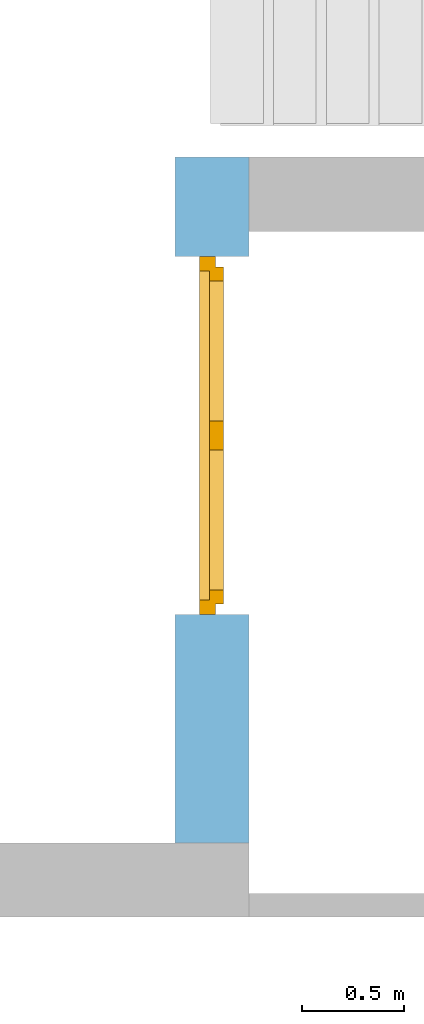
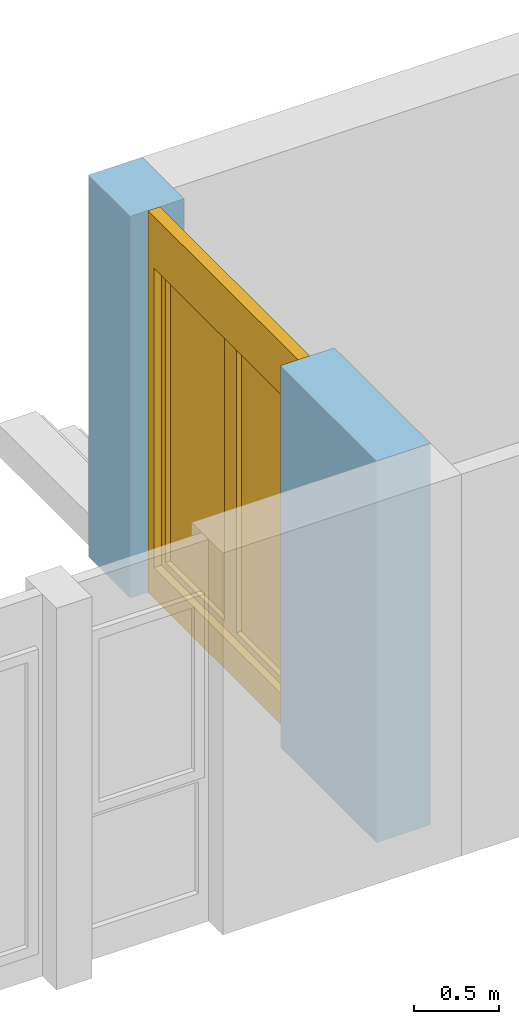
# One storey, part 19 of 41: 1 window, 1 opening, plus 1 element that does not belong to this part.
"""IFC2X3 building model written with IfcOpenShell, lengths in millimetres."""

from ifc_helpers import new_model, entity, si_unit, converted_unit, frame, frame_2d, origin, origin_with_axes, place, context, subcontext, project, spatial, rectangle, extrude, faceted_brep, material, layer, layer_set, layer_usage, type_object, element, fill, save


model = new_model("IFC2X3")

# Units and contexts
model_context = context("Model", 3, precision=1e-05, world=origin())
body_context = subcontext(model_context, "Body", "Model", "MODEL_VIEW")
ifc_project = project(units=[si_unit("LENGTHUNIT", "METRE", prefix="MILLI"), converted_unit("PLANEANGLEUNIT", "DEGREE", entity("IfcPlaneAngleMeasure", 0.0174532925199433), si_unit("PLANEANGLEUNIT", "RADIAN"), dimensions=[0, 0, 0, 0, 0, 0, 0]), si_unit("AREAUNIT", "SQUARE_METRE"), si_unit("VOLUMEUNIT", "CUBIC_METRE")], contexts=[model_context])

# Building, storey
building_placement = place(None, origin())
building = spatial("IfcBuilding", under=ifc_project, at=building_placement, Name="Gebäude", CompositionType="ELEMENT")
storey_placement = place(building_placement, frame((0.0, 0.0, -200.0), z_axis=(0.0, 0.0, 1.0), x_axis=(1.0, 0.0, 0.0)))
storey = spatial("IfcBuildingStorey", under=building, at=storey_placement, Name="EG.- Grundriss", CompositionType="ELEMENT", Elevation=-200.0)

# Wall, opening, window
ifc_material_1 = material(Name="Poroton")
ifc_layer = layer(ifc_material_1, 365.0000000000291)
ifc_layer_set = layer_set([ifc_layer])
ifc_layer_usage = layer_usage(ifc_layer_set, "AXIS2", "POSITIVE", 0.0)
wall_placement = place(storey_placement, frame((154222.7928067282, 136274.8877324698, 0.0), z_axis=(0.0, 0.0, 1.0), x_axis=(0.0, 1.0, 0.0)))
wall = element("IfcWallStandardCase", 1, at=wall_placement, inside=storey, material=ifc_layer_usage, Name="<Unnamed Element>", context=body_context, shape_type="SweptSolid", body=[
    extrude(rectangle(XDim=3374.999999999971, YDim=365.0000000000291, at=frame_2d((1687.499999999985, 182.5000000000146), x_axis=(1.0, 0.0))), origin_with_axes(), (0.0, 0.0, 1.0), 2730.0),
])
opening_placement = place(wall_placement, frame((1124.999999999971, 0.0, 0.0), z_axis=(0.0, 1.0, 0.0), x_axis=(0.0, 0.0, 1.0)))
opening = element("IfcOpeningElement", 2, at=opening_placement, cuts=wall, Name="Fensteröffnung", ObjectType="Opening", context=body_context, shape_type="SweptSolid", body=[
    extrude(rectangle(XDim=2730.0, YDim=1760.0, at=frame_2d((1365.0, 880.0), x_axis=(1.0, 0.0))), origin_with_axes(), (0.0, 0.0, 1.0), 365.0000000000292),
])
ifc_material_2 = material()
window_style = type_object("IfcWindowStyle", Name="Fenster", ConstructionType="NOTDEFINED", OperationType="USERDEFINED", ParameterTakesPrecedence=False, Sizeable=False)
window_placement = place(opening_placement, frame((0.0, 0.0, 0.0), z_axis=(1.0, 0.0, 0.0), x_axis=(0.0, 1.0, 0.0)))
window = element("IfcWindow", 3, at=window_placement, inside=storey, type_object=window_style, material=ifc_material_2, Name="Fenster", OverallHeight=2730.0, OverallWidth=1760.0, context=body_context, shape_type="Brep", body=[
    faceted_brep([(1760.0, 164.9999999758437, 2730.0), (1760.0, 164.9999999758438, -2.449293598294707e-15), (1690.000000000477, 164.9999999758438, -2.449293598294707e-15), (1690.000000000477, 164.9999999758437, 2730.0), (1760.0, 244.9999999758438, 2.449293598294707e-15), (1760.0, 244.9999999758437, 2730.0), (1690.000000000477, 244.9999999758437, 2730.0), (1690.000000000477, 244.9999999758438, 2.449293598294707e-15), (1760.0, 164.9999999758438, -2.449293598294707e-15), (1760.0, 164.9999999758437, 2730.0), (1760.0, 244.9999999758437, 2730.0), (1760.0, 244.9999999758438, 2.449293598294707e-15), (1690.000000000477, 164.9999999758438, -2.449293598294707e-15), (1760.0, 164.9999999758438, -2.449293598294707e-15), (1760.0, 244.9999999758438, 2.449293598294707e-15), (1690.000000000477, 244.9999999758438, 2.449293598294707e-15), (1690.000000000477, 164.9999999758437, 2730.0), (1690.000000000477, 164.9999999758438, -2.449293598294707e-15), (1690.000000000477, 244.9999999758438, 2.449293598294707e-15), (1690.000000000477, 244.9999999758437, 2730.0), (1760.0, 164.9999999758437, 2730.0), (1690.000000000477, 164.9999999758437, 2730.0), (1690.000000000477, 244.9999999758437, 2730.0), (1760.0, 244.9999999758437, 2730.0)], [[[0, 1, 2, 3]], [[4, 5, 6, 7]], [[8, 9, 10, 11]], [[12, 13, 14, 15]], [[16, 17, 18, 19]], [[20, 21, 22, 23]]], orient=[[False], [False], [False], [False], [False], [False]]),
    faceted_brep([(69.99999999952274, 164.9999999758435, 2730.0), (69.99999999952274, 164.9999999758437, -2.449293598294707e-15), (0.0, 164.9999999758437, -2.449293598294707e-15), (0.0, 164.9999999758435, 2730.0), (69.99999999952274, 244.9999999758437, 2.449293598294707e-15), (69.99999999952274, 244.9999999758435, 2730.0), (0.0, 244.9999999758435, 2730.0), (0.0, 244.9999999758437, 2.449293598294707e-15), (69.99999999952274, 164.9999999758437, -2.449293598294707e-15), (69.99999999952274, 164.9999999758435, 2730.0), (69.99999999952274, 244.9999999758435, 2730.0), (69.99999999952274, 244.9999999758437, 2.449293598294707e-15), (0.0, 164.9999999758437, -2.449293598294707e-15), (69.99999999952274, 164.9999999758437, -2.449293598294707e-15), (69.99999999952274, 244.9999999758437, 2.449293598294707e-15), (0.0, 244.9999999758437, 2.449293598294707e-15), (0.0, 164.9999999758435, 2730.0), (0.0, 164.9999999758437, -2.449293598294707e-15), (0.0, 244.9999999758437, 2.449293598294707e-15), (0.0, 244.9999999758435, 2730.0), (69.99999999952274, 164.9999999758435, 2730.0), (0.0, 164.9999999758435, 2730.0), (0.0, 244.9999999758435, 2730.0), (69.99999999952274, 244.9999999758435, 2730.0)], [[[0, 1, 2, 3]], [[4, 5, 6, 7]], [[8, 9, 10, 11]], [[12, 13, 14, 15]], [[16, 17, 18, 19]], [[20, 21, 22, 23]]], orient=[[False], [False], [False], [False], [False], [False]]),
    faceted_brep([(1690.000000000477, 164.9999999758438, 220.0), (1690.000000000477, 164.9999999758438, -2.449293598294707e-15), (69.99999999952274, 164.9999999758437, -2.449293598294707e-15), (69.99999999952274, 164.9999999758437, 220.0), (1690.000000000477, 244.9999999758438, 2.449293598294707e-15), (1690.000000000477, 244.9999999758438, 220.0), (69.99999999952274, 244.9999999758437, 220.0), (69.99999999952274, 244.9999999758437, 2.449293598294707e-15), (1690.000000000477, 164.9999999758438, -2.449293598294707e-15), (1690.000000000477, 164.9999999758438, 220.0), (1690.000000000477, 244.9999999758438, 220.0), (1690.000000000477, 244.9999999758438, 2.449293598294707e-15), (69.99999999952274, 164.9999999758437, -2.449293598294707e-15), (1690.000000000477, 164.9999999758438, -2.449293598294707e-15), (1690.000000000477, 244.9999999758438, 2.449293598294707e-15), (69.99999999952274, 244.9999999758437, 2.449293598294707e-15), (69.99999999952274, 164.9999999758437, 220.0), (69.99999999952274, 164.9999999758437, -2.449293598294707e-15), (69.99999999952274, 244.9999999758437, 2.449293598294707e-15), (69.99999999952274, 244.9999999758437, 220.0), (1690.000000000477, 164.9999999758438, 220.0), (69.99999999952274, 164.9999999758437, 220.0), (69.99999999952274, 244.9999999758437, 220.0), (1690.000000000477, 244.9999999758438, 220.0)], [[[0, 1, 2, 3]], [[4, 5, 6, 7]], [[8, 9, 10, 11]], [[12, 13, 14, 15]], [[16, 17, 18, 19]], [[20, 21, 22, 23]]], orient=[[False], [False], [False], [False], [False], [False]]),
    faceted_brep([(1690.000000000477, 164.9999999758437, 2730.0), (1690.000000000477, 164.9999999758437, 2360.0), (69.99999999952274, 164.9999999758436, 2360.0), (69.99999999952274, 164.9999999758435, 2730.0), (1690.000000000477, 244.9999999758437, 2360.0), (1690.000000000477, 244.9999999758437, 2730.0), (69.99999999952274, 244.9999999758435, 2730.0), (69.99999999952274, 244.9999999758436, 2360.0), (1690.000000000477, 164.9999999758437, 2360.0), (1690.000000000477, 164.9999999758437, 2730.0), (1690.000000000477, 244.9999999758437, 2730.0), (1690.000000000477, 244.9999999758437, 2360.0), (69.99999999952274, 164.9999999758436, 2360.0), (1690.000000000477, 164.9999999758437, 2360.0), (1690.000000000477, 244.9999999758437, 2360.0), (69.99999999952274, 244.9999999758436, 2360.0), (69.99999999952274, 164.9999999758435, 2730.0), (69.99999999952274, 164.9999999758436, 2360.0), (69.99999999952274, 244.9999999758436, 2360.0), (69.99999999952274, 244.9999999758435, 2730.0), (1690.000000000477, 164.9999999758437, 2730.0), (69.99999999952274, 164.9999999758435, 2730.0), (69.99999999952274, 244.9999999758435, 2730.0), (1690.000000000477, 244.9999999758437, 2730.0)], [[[0, 1, 2, 3]], [[4, 5, 6, 7]], [[8, 9, 10, 11]], [[12, 13, 14, 15]], [[16, 17, 18, 19]], [[20, 21, 22, 23]]], orient=[[False], [False], [False], [False], [False], [False]]),
    faceted_brep([(1710.000000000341, 124.9999999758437, 2380.0), (1710.000000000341, 124.9999999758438, 200.0), (1640.000000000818, 124.9999999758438, 200.0), (1640.000000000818, 124.9999999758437, 2380.0), (1710.000000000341, 194.9999999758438, 200.0), (1710.000000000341, 194.9999999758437, 2380.0), (1640.000000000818, 194.9999999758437, 2380.0), (1640.000000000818, 194.9999999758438, 200.0), (1710.000000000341, 124.9999999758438, 200.0), (1710.000000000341, 124.9999999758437, 2380.0), (1710.000000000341, 194.9999999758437, 2380.0), (1710.000000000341, 194.9999999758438, 200.0), (1640.000000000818, 124.9999999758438, 200.0), (1710.000000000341, 124.9999999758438, 200.0), (1710.000000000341, 194.9999999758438, 200.0), (1640.000000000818, 194.9999999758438, 200.0), (1640.000000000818, 124.9999999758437, 2380.0), (1640.000000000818, 124.9999999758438, 200.0), (1640.000000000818, 194.9999999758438, 200.0), (1640.000000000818, 194.9999999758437, 2380.0), (1710.000000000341, 124.9999999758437, 2380.0), (1640.000000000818, 124.9999999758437, 2380.0), (1640.000000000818, 194.9999999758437, 2380.0), (1710.000000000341, 194.9999999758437, 2380.0)], [[[0, 1, 2, 3]], [[4, 5, 6, 7]], [[8, 9, 10, 11]], [[12, 13, 14, 15]], [[16, 17, 18, 19]], [[20, 21, 22, 23]]], orient=[[False], [False], [False], [False], [False], [False]]),
    faceted_brep([(950.4999999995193, 124.9999999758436, 2380.0), (950.4999999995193, 124.9999999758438, 200.0), (880.4999999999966, 124.9999999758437, 200.0), (880.4999999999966, 124.9999999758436, 2380.0), (950.4999999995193, 194.9999999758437, 200.0), (950.4999999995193, 194.9999999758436, 2380.0), (880.4999999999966, 194.9999999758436, 2380.0), (880.4999999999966, 194.9999999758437, 200.0), (950.4999999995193, 124.9999999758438, 200.0), (950.4999999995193, 124.9999999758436, 2380.0), (950.4999999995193, 194.9999999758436, 2380.0), (950.4999999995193, 194.9999999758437, 200.0), (880.4999999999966, 124.9999999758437, 200.0), (950.4999999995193, 124.9999999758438, 200.0), (950.4999999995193, 194.9999999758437, 200.0), (880.4999999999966, 194.9999999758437, 200.0), (880.4999999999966, 124.9999999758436, 2380.0), (880.4999999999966, 124.9999999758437, 200.0), (880.4999999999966, 194.9999999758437, 200.0), (880.4999999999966, 194.9999999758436, 2380.0), (950.4999999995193, 124.9999999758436, 2380.0), (880.4999999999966, 124.9999999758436, 2380.0), (880.4999999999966, 194.9999999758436, 2380.0), (950.4999999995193, 194.9999999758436, 2380.0)], [[[0, 1, 2, 3]], [[4, 5, 6, 7]], [[8, 9, 10, 11]], [[12, 13, 14, 15]], [[16, 17, 18, 19]], [[20, 21, 22, 23]]], orient=[[False], [False], [False], [False], [False], [False]]),
    faceted_brep([(1640.000000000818, 124.9999999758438, 270.0), (1640.000000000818, 124.9999999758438, 200.0), (950.4999999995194, 124.9999999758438, 200.0), (950.4999999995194, 124.9999999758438, 270.0), (1640.000000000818, 194.9999999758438, 200.0), (1640.000000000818, 194.9999999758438, 270.0), (950.4999999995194, 194.9999999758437, 270.0), (950.4999999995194, 194.9999999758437, 200.0), (1640.000000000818, 124.9999999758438, 200.0), (1640.000000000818, 124.9999999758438, 270.0), (1640.000000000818, 194.9999999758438, 270.0), (1640.000000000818, 194.9999999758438, 200.0), (950.4999999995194, 124.9999999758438, 200.0), (1640.000000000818, 124.9999999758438, 200.0), (1640.000000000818, 194.9999999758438, 200.0), (950.4999999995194, 194.9999999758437, 200.0), (950.4999999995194, 124.9999999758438, 270.0), (950.4999999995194, 124.9999999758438, 200.0), (950.4999999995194, 194.9999999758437, 200.0), (950.4999999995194, 194.9999999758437, 270.0), (1640.000000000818, 124.9999999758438, 270.0), (950.4999999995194, 124.9999999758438, 270.0), (950.4999999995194, 194.9999999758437, 270.0), (1640.000000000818, 194.9999999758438, 270.0)], [[[0, 1, 2, 3]], [[4, 5, 6, 7]], [[8, 9, 10, 11]], [[12, 13, 14, 15]], [[16, 17, 18, 19]], [[20, 21, 22, 23]]], orient=[[False], [False], [False], [False], [False], [False]]),
    faceted_brep([(1640.000000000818, 124.9999999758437, 2380.0), (1640.000000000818, 124.9999999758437, 2310.0), (950.4999999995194, 124.9999999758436, 2310.0), (950.4999999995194, 124.9999999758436, 2380.0), (1640.000000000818, 194.9999999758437, 2310.0), (1640.000000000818, 194.9999999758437, 2380.0), (950.4999999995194, 194.9999999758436, 2380.0), (950.4999999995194, 194.9999999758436, 2310.0), (1640.000000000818, 124.9999999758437, 2310.0), (1640.000000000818, 124.9999999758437, 2380.0), (1640.000000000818, 194.9999999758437, 2380.0), (1640.000000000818, 194.9999999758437, 2310.0), (950.4999999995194, 124.9999999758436, 2310.0), (1640.000000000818, 124.9999999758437, 2310.0), (1640.000000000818, 194.9999999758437, 2310.0), (950.4999999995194, 194.9999999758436, 2310.0), (950.4999999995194, 124.9999999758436, 2380.0), (950.4999999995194, 124.9999999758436, 2310.0), (950.4999999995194, 194.9999999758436, 2310.0), (950.4999999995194, 194.9999999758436, 2380.0), (1640.000000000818, 124.9999999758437, 2380.0), (950.4999999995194, 124.9999999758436, 2380.0), (950.4999999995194, 194.9999999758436, 2380.0), (1640.000000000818, 194.9999999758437, 2380.0)], [[[0, 1, 2, 3]], [[4, 5, 6, 7]], [[8, 9, 10, 11]], [[12, 13, 14, 15]], [[16, 17, 18, 19]], [[20, 21, 22, 23]]], orient=[[False], [False], [False], [False], [False], [False]]),
    faceted_brep([(879.5000000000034, 124.9999999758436, 2380.0), (879.5000000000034, 124.9999999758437, 200.0), (809.5000000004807, 124.9999999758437, 200.0), (809.5000000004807, 124.9999999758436, 2380.0), (879.5000000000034, 194.9999999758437, 200.0), (879.5000000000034, 194.9999999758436, 2380.0), (809.5000000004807, 194.9999999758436, 2380.0), (809.5000000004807, 194.9999999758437, 200.0), (879.5000000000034, 124.9999999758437, 200.0), (879.5000000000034, 124.9999999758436, 2380.0), (879.5000000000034, 194.9999999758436, 2380.0), (879.5000000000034, 194.9999999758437, 200.0), (809.5000000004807, 124.9999999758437, 200.0), (879.5000000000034, 124.9999999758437, 200.0), (879.5000000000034, 194.9999999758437, 200.0), (809.5000000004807, 194.9999999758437, 200.0), (809.5000000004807, 124.9999999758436, 2380.0), (809.5000000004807, 124.9999999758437, 200.0), (809.5000000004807, 194.9999999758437, 200.0), (809.5000000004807, 194.9999999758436, 2380.0), (879.5000000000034, 124.9999999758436, 2380.0), (809.5000000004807, 124.9999999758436, 2380.0), (809.5000000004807, 194.9999999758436, 2380.0), (879.5000000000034, 194.9999999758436, 2380.0)], [[[0, 1, 2, 3]], [[4, 5, 6, 7]], [[8, 9, 10, 11]], [[12, 13, 14, 15]], [[16, 17, 18, 19]], [[20, 21, 22, 23]]], orient=[[False], [False], [False], [False], [False], [False]]),
    faceted_brep([(119.9999999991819, 124.9999999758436, 2380.0), (119.9999999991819, 124.9999999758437, 200.0), (49.99999999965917, 124.9999999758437, 200.0), (49.99999999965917, 124.9999999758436, 2380.0), (119.9999999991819, 194.9999999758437, 200.0), (119.9999999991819, 194.9999999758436, 2380.0), (49.99999999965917, 194.9999999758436, 2380.0), (49.99999999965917, 194.9999999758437, 200.0), (119.9999999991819, 124.9999999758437, 200.0), (119.9999999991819, 124.9999999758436, 2380.0), (119.9999999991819, 194.9999999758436, 2380.0), (119.9999999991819, 194.9999999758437, 200.0), (49.99999999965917, 124.9999999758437, 200.0), (119.9999999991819, 124.9999999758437, 200.0), (119.9999999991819, 194.9999999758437, 200.0), (49.99999999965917, 194.9999999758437, 200.0), (49.99999999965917, 124.9999999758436, 2380.0), (49.99999999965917, 124.9999999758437, 200.0), (49.99999999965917, 194.9999999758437, 200.0), (49.99999999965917, 194.9999999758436, 2380.0), (119.9999999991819, 124.9999999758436, 2380.0), (49.99999999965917, 124.9999999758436, 2380.0), (49.99999999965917, 194.9999999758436, 2380.0), (119.9999999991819, 194.9999999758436, 2380.0)], [[[0, 1, 2, 3]], [[4, 5, 6, 7]], [[8, 9, 10, 11]], [[12, 13, 14, 15]], [[16, 17, 18, 19]], [[20, 21, 22, 23]]], orient=[[False], [False], [False], [False], [False], [False]]),
    faceted_brep([(809.5000000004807, 124.9999999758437, 270.0), (809.5000000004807, 124.9999999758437, 200.0), (119.9999999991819, 124.9999999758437, 200.0), (119.9999999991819, 124.9999999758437, 270.0), (809.5000000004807, 194.9999999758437, 200.0), (809.5000000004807, 194.9999999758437, 270.0), (119.9999999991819, 194.9999999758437, 270.0), (119.9999999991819, 194.9999999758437, 200.0), (809.5000000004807, 124.9999999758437, 200.0), (809.5000000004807, 124.9999999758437, 270.0), (809.5000000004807, 194.9999999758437, 270.0), (809.5000000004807, 194.9999999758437, 200.0), (119.9999999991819, 124.9999999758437, 200.0), (809.5000000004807, 124.9999999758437, 200.0), (809.5000000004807, 194.9999999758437, 200.0), (119.9999999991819, 194.9999999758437, 200.0), (119.9999999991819, 124.9999999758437, 270.0), (119.9999999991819, 124.9999999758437, 200.0), (119.9999999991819, 194.9999999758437, 200.0), (119.9999999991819, 194.9999999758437, 270.0), (809.5000000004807, 124.9999999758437, 270.0), (119.9999999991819, 124.9999999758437, 270.0), (119.9999999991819, 194.9999999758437, 270.0), (809.5000000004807, 194.9999999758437, 270.0)], [[[0, 1, 2, 3]], [[4, 5, 6, 7]], [[8, 9, 10, 11]], [[12, 13, 14, 15]], [[16, 17, 18, 19]], [[20, 21, 22, 23]]], orient=[[False], [False], [False], [False], [False], [False]]),
    faceted_brep([(809.5000000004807, 124.9999999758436, 2380.0), (809.5000000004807, 124.9999999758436, 2310.0), (119.9999999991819, 124.9999999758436, 2310.0), (119.9999999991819, 124.9999999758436, 2380.0), (809.5000000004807, 194.9999999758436, 2310.0), (809.5000000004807, 194.9999999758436, 2380.0), (119.9999999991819, 194.9999999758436, 2380.0), (119.9999999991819, 194.9999999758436, 2310.0), (809.5000000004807, 124.9999999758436, 2310.0), (809.5000000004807, 124.9999999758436, 2380.0), (809.5000000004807, 194.9999999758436, 2380.0), (809.5000000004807, 194.9999999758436, 2310.0), (119.9999999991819, 124.9999999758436, 2310.0), (809.5000000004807, 124.9999999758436, 2310.0), (809.5000000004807, 194.9999999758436, 2310.0), (119.9999999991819, 194.9999999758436, 2310.0), (119.9999999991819, 124.9999999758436, 2380.0), (119.9999999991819, 124.9999999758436, 2310.0), (119.9999999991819, 194.9999999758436, 2310.0), (119.9999999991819, 194.9999999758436, 2380.0), (809.5000000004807, 124.9999999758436, 2380.0), (119.9999999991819, 124.9999999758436, 2380.0), (119.9999999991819, 194.9999999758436, 2380.0), (809.5000000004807, 194.9999999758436, 2380.0)], [[[0, 1, 2, 3]], [[4, 5, 6, 7]], [[8, 9, 10, 11]], [[12, 13, 14, 15]], [[16, 17, 18, 19]], [[20, 21, 22, 23]]], orient=[[False], [False], [False], [False], [False], [False]]),
    faceted_brep([(1640.000000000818, 159.9999999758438, 270.0), (950.4999999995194, 159.9999999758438, 270.0), (950.4999999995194, 159.9999999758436, 2310.0), (1640.000000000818, 159.9999999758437, 2310.0), (1640.000000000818, 160.9999999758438, 270.0), (1640.000000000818, 160.9999999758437, 2310.0), (950.4999999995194, 160.9999999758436, 2310.0), (950.4999999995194, 160.9999999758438, 270.0), (1640.000000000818, 159.9999999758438, 270.0), (1640.000000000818, 160.9999999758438, 270.0), (950.4999999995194, 160.9999999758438, 270.0), (950.4999999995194, 159.9999999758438, 270.0), (950.4999999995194, 159.9999999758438, 270.0), (950.4999999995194, 160.9999999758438, 270.0), (950.4999999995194, 160.9999999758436, 2310.0), (950.4999999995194, 159.9999999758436, 2310.0), (950.4999999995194, 159.9999999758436, 2310.0), (950.4999999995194, 160.9999999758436, 2310.0), (1640.000000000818, 160.9999999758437, 2310.0), (1640.000000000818, 159.9999999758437, 2310.0), (1640.000000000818, 159.9999999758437, 2310.0), (1640.000000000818, 160.9999999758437, 2310.0), (1640.000000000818, 160.9999999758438, 270.0), (1640.000000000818, 159.9999999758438, 270.0)], [[[0, 1, 2, 3]], [[4, 5, 6, 7]], [[8, 9, 10, 11]], [[12, 13, 14, 15]], [[16, 17, 18, 19]], [[20, 21, 22, 23]]], orient=[[False], [False], [False], [False], [False], [False]]),
    faceted_brep([(809.5000000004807, 159.9999999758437, 270.0), (119.9999999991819, 159.9999999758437, 270.0), (119.9999999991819, 159.9999999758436, 2310.0), (809.5000000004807, 159.9999999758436, 2310.0), (809.5000000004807, 160.9999999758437, 270.0), (809.5000000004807, 160.9999999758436, 2310.0), (119.9999999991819, 160.9999999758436, 2310.0), (119.9999999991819, 160.9999999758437, 270.0), (809.5000000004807, 159.9999999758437, 270.0), (809.5000000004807, 160.9999999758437, 270.0), (119.9999999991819, 160.9999999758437, 270.0), (119.9999999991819, 159.9999999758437, 270.0), (119.9999999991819, 159.9999999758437, 270.0), (119.9999999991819, 160.9999999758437, 270.0), (119.9999999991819, 160.9999999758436, 2310.0), (119.9999999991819, 159.9999999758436, 2310.0), (119.9999999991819, 159.9999999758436, 2310.0), (119.9999999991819, 160.9999999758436, 2310.0), (809.5000000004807, 160.9999999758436, 2310.0), (809.5000000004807, 159.9999999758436, 2310.0), (809.5000000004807, 159.9999999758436, 2310.0), (809.5000000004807, 160.9999999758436, 2310.0), (809.5000000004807, 160.9999999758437, 270.0), (809.5000000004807, 159.9999999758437, 270.0)], [[[0, 1, 2, 3]], [[4, 5, 6, 7]], [[8, 9, 10, 11]], [[12, 13, 14, 15]], [[16, 17, 18, 19]], [[20, 21, 22, 23]]], orient=[[False], [False], [False], [False], [False], [False]]),
])
fill(opening, window)

save(model, "model.ifc")
